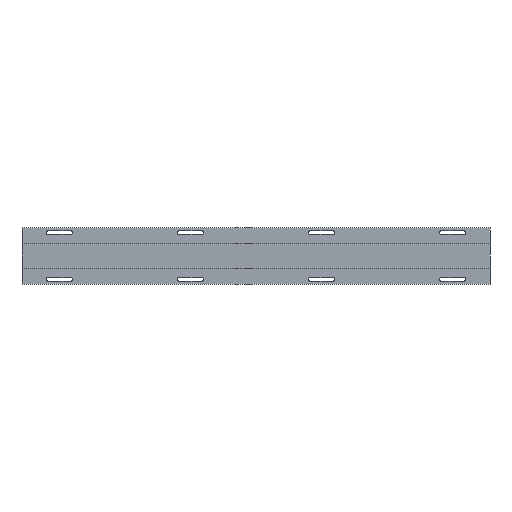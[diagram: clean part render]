
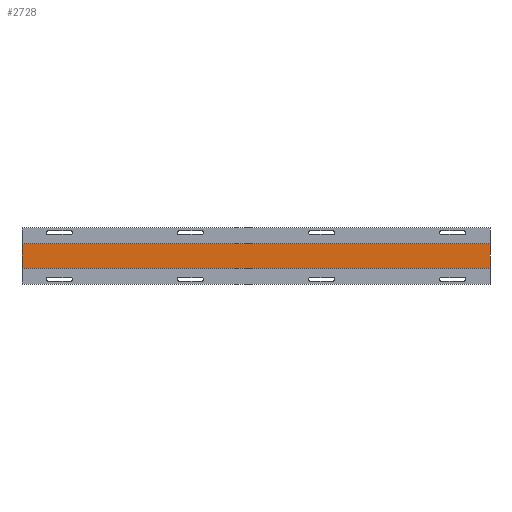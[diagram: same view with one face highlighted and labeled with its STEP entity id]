
A CAD part, front view. The second image highlights one B-rep face of the part: STEP entity #2728.
In plain terms, the highlighted planar face has unit normal (0, -1, 0).
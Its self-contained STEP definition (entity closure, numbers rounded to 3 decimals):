
#56 = LINE ( 'NONE', #3628, #2394 ) ;
#183 = VECTOR ( 'NONE', #2381, 1000. ) ;
#332 = CARTESIAN_POINT ( 'NONE',  ( 556.958, -71.052, 974. ) ) ;
#411 = EDGE_CURVE ( 'NONE', #4258, #4452, #4625, .T. ) ;
#459 = CARTESIAN_POINT ( 'NONE',  ( -443.042, -71.052, 1026. ) ) ;
#524 = EDGE_LOOP ( 'NONE', ( #4125, #4905, #5406, #3481 ) ) ;
#676 = CARTESIAN_POINT ( 'NONE',  ( 556.958, -71.052, 1026. ) ) ;
#1419 = EDGE_CURVE ( 'NONE', #1778, #4258, #1573, .T. ) ;
#1573 = LINE ( 'NONE', #676, #183 ) ;
#1736 = EDGE_CURVE ( 'NONE', #3859, #4452, #2665, .T. ) ;
#1778 = VERTEX_POINT ( 'NONE', #5185 ) ;
#1867 = DIRECTION ( 'NONE',  ( -1., 0., 0. ) ) ;
#2080 = CARTESIAN_POINT ( 'NONE',  ( -443.042, -71.052, 1026. ) ) ;
#2201 = VECTOR ( 'NONE', #3415, 1000. ) ;
#2381 = DIRECTION ( 'NONE',  ( 0., 0., -1. ) ) ;
#2394 = VECTOR ( 'NONE', #1867, 1000. ) ;
#2665 = LINE ( 'NONE', #2080, #2201 ) ;
#2700 = EDGE_CURVE ( 'NONE', #1778, #3859, #56, .T. ) ;
#2728 = ADVANCED_FACE ( 'NONE', ( #4935 ), #4870, .F. ) ;
#3182 = DIRECTION ( 'NONE',  ( 0., 0., 1. ) ) ;
#3415 = DIRECTION ( 'NONE',  ( 0., 0., -1. ) ) ;
#3481 = ORIENTED_EDGE ( 'NONE', *, *, #2700, .T. ) ;
#3628 = CARTESIAN_POINT ( 'NONE',  ( 556.958, -71.052, 1026. ) ) ;
#3859 = VERTEX_POINT ( 'NONE', #459 ) ;
#4035 = AXIS2_PLACEMENT_3D ( 'NONE', #4860, #4815, #3182 ) ;
#4125 = ORIENTED_EDGE ( 'NONE', *, *, #1736, .T. ) ;
#4212 = CARTESIAN_POINT ( 'NONE',  ( -443.042, -71.052, 974. ) ) ;
#4258 = VERTEX_POINT ( 'NONE', #332 ) ;
#4452 = VERTEX_POINT ( 'NONE', #4212 ) ;
#4466 = CARTESIAN_POINT ( 'NONE',  ( 556.958, -71.052, 974. ) ) ;
#4495 = VECTOR ( 'NONE', #4852, 1000. ) ;
#4625 = LINE ( 'NONE', #4466, #4495 ) ;
#4815 = DIRECTION ( 'NONE',  ( 0., 1., 0. ) ) ;
#4852 = DIRECTION ( 'NONE',  ( -1., 0., 0. ) ) ;
#4860 = CARTESIAN_POINT ( 'NONE',  ( 556.958, -71.052, 1026. ) ) ;
#4870 = PLANE ( 'NONE',  #4035 ) ;
#4905 = ORIENTED_EDGE ( 'NONE', *, *, #411, .F. ) ;
#4935 = FACE_OUTER_BOUND ( 'NONE', #524, .T. ) ;
#5185 = CARTESIAN_POINT ( 'NONE',  ( 556.958, -71.052, 1026. ) ) ;
#5406 = ORIENTED_EDGE ( 'NONE', *, *, #1419, .F. ) ;
